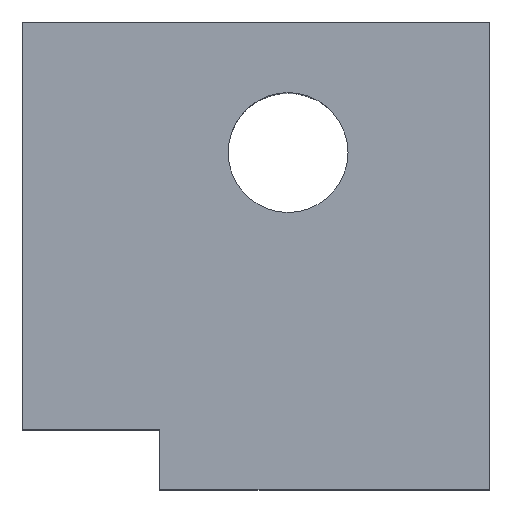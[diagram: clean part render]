
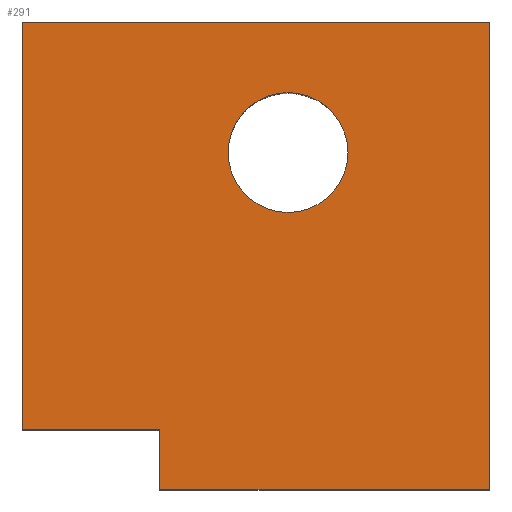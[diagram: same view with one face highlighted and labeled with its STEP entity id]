
A CAD part, top view. The second image highlights one B-rep face of the part: STEP entity #291.
In plain terms, the highlighted planar face has unit normal (0, 0, 1).
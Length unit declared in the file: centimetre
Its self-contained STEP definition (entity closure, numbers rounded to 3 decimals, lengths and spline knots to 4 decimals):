
#16 = CIRCLE ( 'NONE', #717, 128.2915 ) ;
#23 = LINE ( 'NONE', #304, #368 ) ;
#51 = CARTESIAN_POINT ( 'NONE',  ( 1000., 0., 1000. ) ) ;
#80 = DIRECTION ( 'NONE',  ( -1., 0., 0. ) ) ;
#111 = ORIENTED_EDGE ( 'NONE', *, *, #1072, .T. ) ;
#122 = DIRECTION ( 'NONE',  ( -1., 0., 0. ) ) ;
#133 = VECTOR ( 'NONE', #458, 100. ) ;
#155 = VECTOR ( 'NONE', #122, 100. ) ;
#180 = CARTESIAN_POINT ( 'NONE',  ( 0., 1000., 1000. ) ) ;
#225 = VERTEX_POINT ( 'NONE', #813 ) ;
#236 = EDGE_LOOP ( 'NONE', ( #1166, #609 ) ) ;
#252 = DIRECTION ( 'NONE',  ( 1., 0., 0. ) ) ;
#282 = ORIENTED_EDGE ( 'NONE', *, *, #1164, .T. ) ;
#291 = ADVANCED_FACE ( 'NONE', ( #528, #1212 ), #909, .T. ) ;
#304 = CARTESIAN_POINT ( 'NONE',  ( 1000., 1000., 1000. ) ) ;
#334 = DIRECTION ( 'NONE',  ( 0., -1., 0. ) ) ;
#343 = CARTESIAN_POINT ( 'NONE',  ( 0., 0., 1000. ) ) ;
#368 = VECTOR ( 'NONE', #1168, 100. ) ;
#377 = DIRECTION ( 'NONE',  ( -1., 0., 0. ) ) ;
#415 = CARTESIAN_POINT ( 'NONE',  ( 696.9507, 720.6127, 1000. ) ) ;
#429 = ORIENTED_EDGE ( 'NONE', *, *, #766, .T. ) ;
#447 = VERTEX_POINT ( 'NONE', #517 ) ;
#458 = DIRECTION ( 'NONE',  ( 1., 0., 0. ) ) ;
#462 = LINE ( 'NONE', #660, #133 ) ;
#463 = CARTESIAN_POINT ( 'NONE',  ( 293.9697, 0., 1000. ) ) ;
#506 = EDGE_CURVE ( 'NONE', #225, #570, #830, .T. ) ;
#517 = CARTESIAN_POINT ( 'NONE',  ( 0., 127.4286, 1000. ) ) ;
#519 = VERTEX_POINT ( 'NONE', #180 ) ;
#525 = CIRCLE ( 'NONE', #1231, 128.2915 ) ;
#528 = FACE_OUTER_BOUND ( 'NONE', #771, .T. ) ;
#541 = DIRECTION ( 'NONE',  ( 0., 0., -1. ) ) ;
#567 = CARTESIAN_POINT ( 'NONE',  ( 440.3677, 720.6127, 1000. ) ) ;
#570 = VERTEX_POINT ( 'NONE', #734 ) ;
#589 = DIRECTION ( 'NONE',  ( -1., 0., 0. ) ) ;
#594 = CARTESIAN_POINT ( 'NONE',  ( 0., 127.4286, 1000. ) ) ;
#609 = ORIENTED_EDGE ( 'NONE', *, *, #1154, .T. ) ;
#613 = VERTEX_POINT ( 'NONE', #567 ) ;
#644 = VECTOR ( 'NONE', #1137, 100. ) ;
#660 = CARTESIAN_POINT ( 'NONE',  ( 0., 0., 1000. ) ) ;
#716 = DIRECTION ( 'NONE',  ( 0., 0., 1. ) ) ;
#717 = AXIS2_PLACEMENT_3D ( 'NONE', #843, #541, #377 ) ;
#720 = AXIS2_PLACEMENT_3D ( 'NONE', #343, #716, #252 ) ;
#734 = CARTESIAN_POINT ( 'NONE',  ( 293.9697, 127.4286, 1000. ) ) ;
#754 = LINE ( 'NONE', #1143, #986 ) ;
#766 = EDGE_CURVE ( 'NONE', #1026, #791, #23, .T. ) ;
#771 = EDGE_LOOP ( 'NONE', ( #1035, #934, #994, #429, #282, #111 ) ) ;
#791 = VERTEX_POINT ( 'NONE', #952 ) ;
#813 = CARTESIAN_POINT ( 'NONE',  ( 293.9697, 0., 1000. ) ) ;
#830 = LINE ( 'NONE', #463, #644 ) ;
#843 = CARTESIAN_POINT ( 'NONE',  ( 568.6592, 720.6127, 1000. ) ) ;
#858 = EDGE_CURVE ( 'NONE', #613, #1005, #525, .T. ) ;
#868 = EDGE_CURVE ( 'NONE', #570, #447, #1065, .T. ) ;
#909 = PLANE ( 'NONE',  #720 ) ;
#910 = LINE ( 'NONE', #997, #1104 ) ;
#934 = ORIENTED_EDGE ( 'NONE', *, *, #506, .F. ) ;
#952 = CARTESIAN_POINT ( 'NONE',  ( 1000., 1000., 1000. ) ) ;
#986 = VECTOR ( 'NONE', #80, 100. ) ;
#994 = ORIENTED_EDGE ( 'NONE', *, *, #1149, .T. ) ;
#997 = CARTESIAN_POINT ( 'NONE',  ( 0., 1000., 1000. ) ) ;
#1005 = VERTEX_POINT ( 'NONE', #415 ) ;
#1026 = VERTEX_POINT ( 'NONE', #51 ) ;
#1035 = ORIENTED_EDGE ( 'NONE', *, *, #868, .F. ) ;
#1060 = CARTESIAN_POINT ( 'NONE',  ( 568.6592, 720.6127, 1000. ) ) ;
#1065 = LINE ( 'NONE', #594, #155 ) ;
#1072 = EDGE_CURVE ( 'NONE', #519, #447, #910, .T. ) ;
#1073 = DIRECTION ( 'NONE',  ( 0., 0., -1. ) ) ;
#1104 = VECTOR ( 'NONE', #334, 100. ) ;
#1137 = DIRECTION ( 'NONE',  ( 0., 1., 0. ) ) ;
#1143 = CARTESIAN_POINT ( 'NONE',  ( 0., 1000., 1000. ) ) ;
#1149 = EDGE_CURVE ( 'NONE', #225, #1026, #462, .T. ) ;
#1154 = EDGE_CURVE ( 'NONE', #1005, #613, #16, .T. ) ;
#1164 = EDGE_CURVE ( 'NONE', #791, #519, #754, .T. ) ;
#1166 = ORIENTED_EDGE ( 'NONE', *, *, #858, .T. ) ;
#1168 = DIRECTION ( 'NONE',  ( 0., 1., 0. ) ) ;
#1212 = FACE_BOUND ( 'NONE', #236, .T. ) ;
#1231 = AXIS2_PLACEMENT_3D ( 'NONE', #1060, #1073, #589 ) ;
